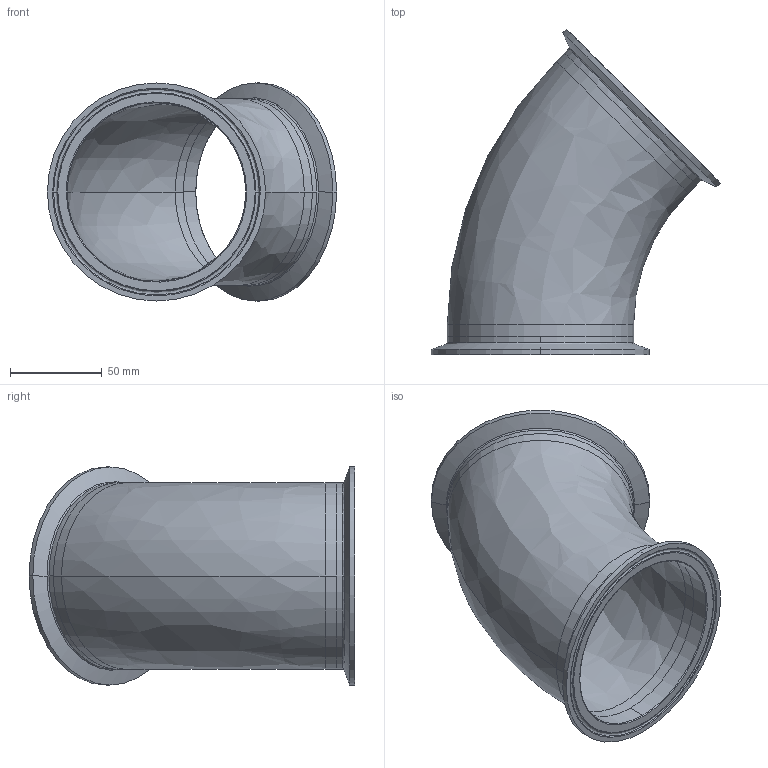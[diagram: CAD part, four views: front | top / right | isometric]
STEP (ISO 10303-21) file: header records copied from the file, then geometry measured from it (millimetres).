
FILE_DESCRIPTION (( 'STEP AP214' ), '1' );
FILE_NAME ('TEG2K6L4.0-...STEP', '2016-05-22T07:36:49', ( 'eran' ), ( '' ), 'SwSTEP 2.0', 'SolidWorks 2016', '' );
FILE_SCHEMA (( 'AUTOMOTIVE_DESIGN' ));
Length unit declared in the file: millimetre
Products named in the file (1): TEG2K6L4.0-..
Bounding box: 157.65 x 177.59 x 118.92 mm (x, y, z)
Volume: 125792.4 mm3; surface area: 109979.7 mm2
Topology: 3 solids, 3 shells, 64 faces, 156 edges, 100 vertices
Faces by surface type: bspline 24, cylinder 20, cone 12, plane 8
Entity records: 3320 total; most frequent: CARTESIAN_POINT 1765, DIRECTION 338, ORIENTED_EDGE 312, EDGE_CURVE 156, AXIS2_PLACEMENT_3D 153, CIRCLE 112, VERTEX_POINT 100, EDGE_LOOP 72
